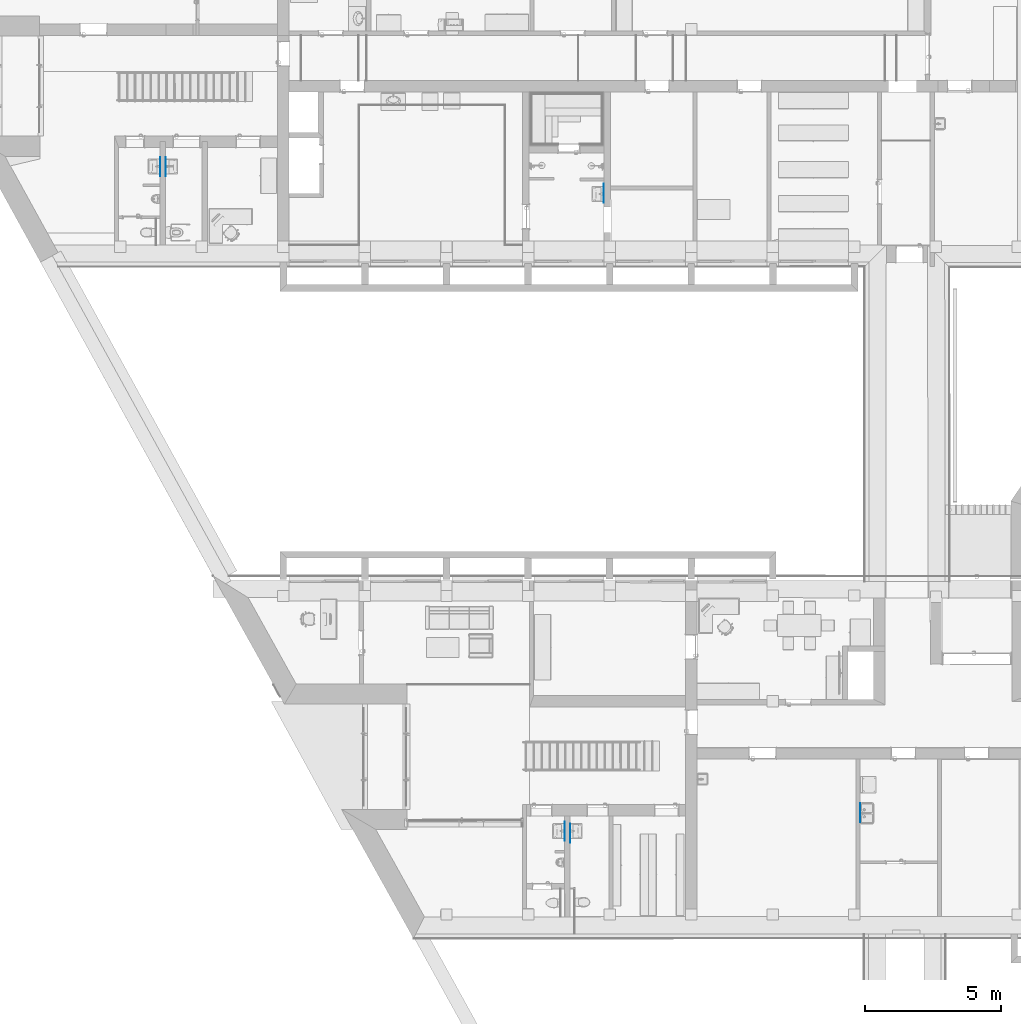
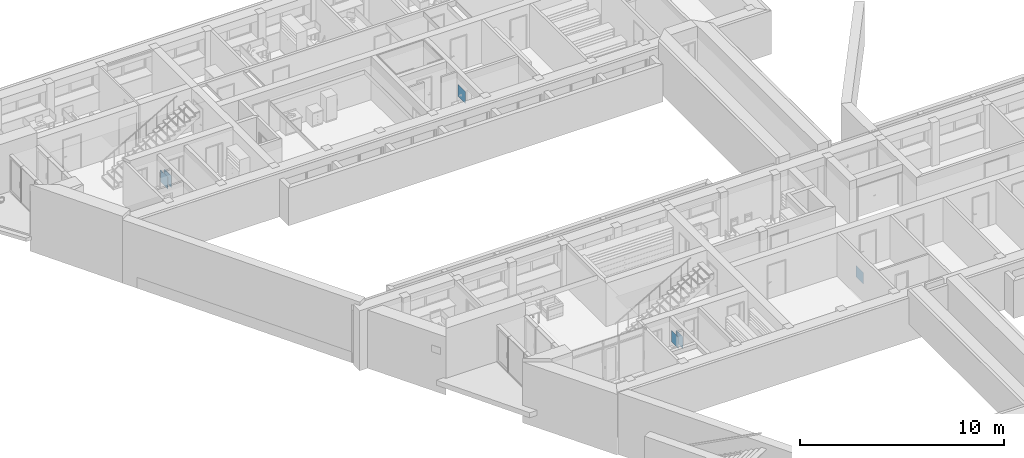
# One storey, part 32 of 127: 6 discrete accessories.
"""IFC2X3 building model written with IfcOpenShell, lengths in millimetres."""

from ifc_helpers import new_model, entity, si_unit, converted_unit, derived_unit, money_unit, direction, frame, origin_with_axes, place, context, subcontext, project, spatial, polyline, outline, extrude, material, type_object, element, save


model = new_model("IFC2X3")

# Units and contexts
model_context = context("Model", 3, precision=1e-05, world=origin_with_axes(), true_north=direction((0.0, 1.0)))
body_context = subcontext(model_context, "Body", "Model", "MODEL_VIEW")
ifc_project = project(units=[si_unit("LENGTHUNIT", "METRE", prefix="MILLI"), si_unit("AREAUNIT", "SQUARE_METRE"), si_unit("VOLUMEUNIT", "CUBIC_METRE"), converted_unit("PLANEANGLEUNIT", "DEGREE", entity("IfcPlaneAngleMeasure", 0.0174532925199), si_unit("PLANEANGLEUNIT", "RADIAN"), dimensions=[0, 0, 0, 0, 0, 0, 0]), si_unit("SOLIDANGLEUNIT", "STERADIAN"), money_unit("EUR"), converted_unit("TIMEUNIT", "Year", entity("IfcTimeMeasure", 31556926.0), si_unit("TIMEUNIT", "SECOND"), dimensions=[0, 0, 1, 0, 0, 0, 0]), si_unit("MASSUNIT", "GRAM", prefix="KILO"), si_unit("THERMODYNAMICTEMPERATUREUNIT", "DEGREE_CELSIUS"), si_unit("LUMINOUSINTENSITYUNIT", "LUMEN"), si_unit("ENERGYUNIT", "JOULE", prefix="MEGA"), derived_unit("THERMALCONDUCTANCEUNIT", [(si_unit("POWERUNIT", "WATT"), 1), (si_unit("LENGTHUNIT", "METRE"), -1), (si_unit("THERMODYNAMICTEMPERATUREUNIT", "KELVIN"), -1)]), derived_unit("SPECIFICHEATCAPACITYUNIT", [(si_unit("ENERGYUNIT", "JOULE"), 1), (si_unit("MASSUNIT", "GRAM", prefix="KILO"), -1), (si_unit("THERMODYNAMICTEMPERATUREUNIT", "KELVIN"), -1)]), derived_unit("MASSDENSITYUNIT", [(si_unit("MASSUNIT", "GRAM", prefix="KILO"), 1), (si_unit("VOLUMEUNIT", "CUBIC_METRE"), -1)])], contexts=[model_context])

# Site, building, storey
site_placement = place(None, origin_with_axes())
site = spatial("IfcSite", under=ifc_project, at=site_placement, Name="Site", CompositionType="ELEMENT")
building_placement = place(site_placement, origin_with_axes())
building = spatial("IfcBuilding", under=site, at=building_placement, Name="Building", CompositionType="ELEMENT")
storey_placement = place(building_placement, origin_with_axes())
storey = spatial("IfcBuildingStorey", under=building, at=storey_placement, Name="1 KORRUS", CompositionType="ELEMENT", Elevation=0.0)

# Discrete accessories
ifc_material = material(Name="Peegel")
discrete_accessory_type = type_object("IfcDiscreteAccessoryType", Name="Peegel 5")
for number, where, z_axis, x_axis in (
    (1, (37159.0599125, 38360.1124766, 871.306956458), (0.0, 0.0, 1.0), (0.0, 1.0, 0.0)),
    (2, (26497.1331116, 37604.7545442, 1200.0), (0.0, 0.0, 1.0), (0.0, 1.0, 0.0)),
    (3, (26291.5668887, 37686.4851698, 1200.0), (0.0, 0.0, 1.0), (0.0, 1.0, 0.0)),
    (4, (27734.7274585, 61143.7101885, 1200.0), (0.0, 0.0, 1.0), (0.0, 1.0, 0.0)),
    (5, (11416.6560795, 62120.0394391, 1200.0), (0.0, 0.0, 1.0), (0.0, 1.0, 0.0)),
    (6, (11622.7714171, 62120.0394391, 1200.0), (0.0, 0.0, 1.0), (0.0, 1.0, 0.0)),
):
    element("IfcDiscreteAccessory", number, at=place(storey_placement, frame(where, z_axis=z_axis, x_axis=x_axis)), inside=storey, type_object=discrete_accessory_type, material=ifc_material, Name="Peegel", context=body_context, shape_type="SweptSolid", body=[
        extrude(outline(polyline([(0.0, 0.0), (699.999999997, 0.0), (699.999999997, 5.0), (0.0, 5.0), (0.0, 0.0)])), origin_with_axes(), (0.0, 0.0, 1.0), 700.0),
    ])

save(model, "model.ifc")
